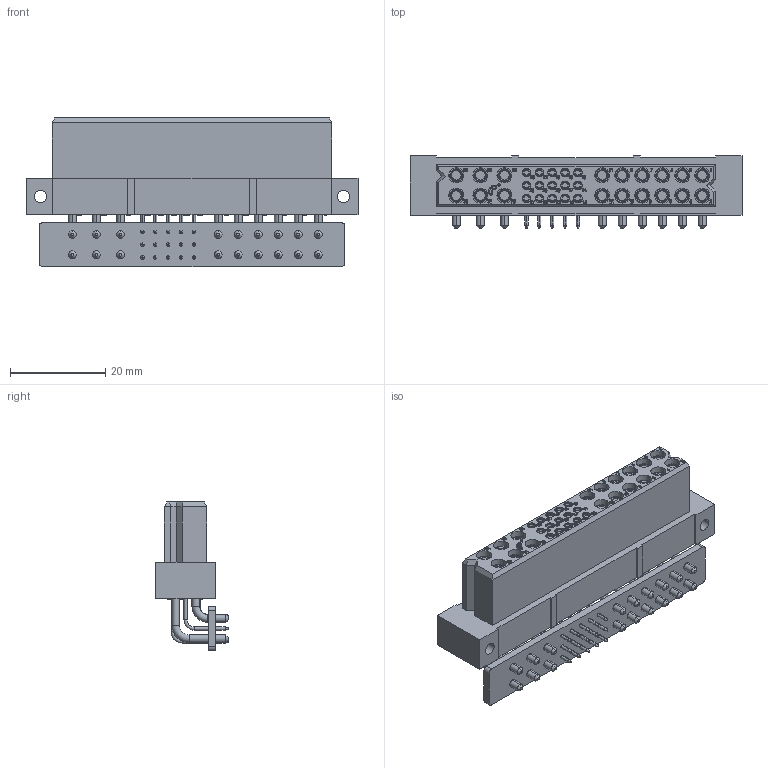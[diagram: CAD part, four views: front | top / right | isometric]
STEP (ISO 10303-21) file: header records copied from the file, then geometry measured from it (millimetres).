
FILE_DESCRIPTION (( 'STEP AP203' ), '1' );
FILE_NAME ('PCIM33W18F400A1.STEP', '2022-09-12T03:29:52', ( '' ), ( '' ), 'SwSTEP 2.0', 'SolidWorks 2021', '' );
FILE_SCHEMA (( 'CONFIG_CONTROL_DESIGN' ));
Products named in the file (1): PCIM33W18F400A1
Bounding box: 69.66 x 15.22 x 31.32 mm (x, y, z)
Volume: 13478.9 mm3; surface area: 10571.1 mm2
Topology: 1 solids, 1 shells, 2734 faces, 6960 edges, 4552 vertices
Faces by surface type: plane 1097, bspline 854, cylinder 463, cone 254, torus 66
Entity records: 130199 total; most frequent: CARTESIAN_POINT 68661, ORIENTED_EDGE 13920, DIRECTION 10332, EDGE_CURVE 6960, VERTEX_POINT 4552, VECTOR 3694, LINE 3694, AXIS2_PLACEMENT_3D 3319
